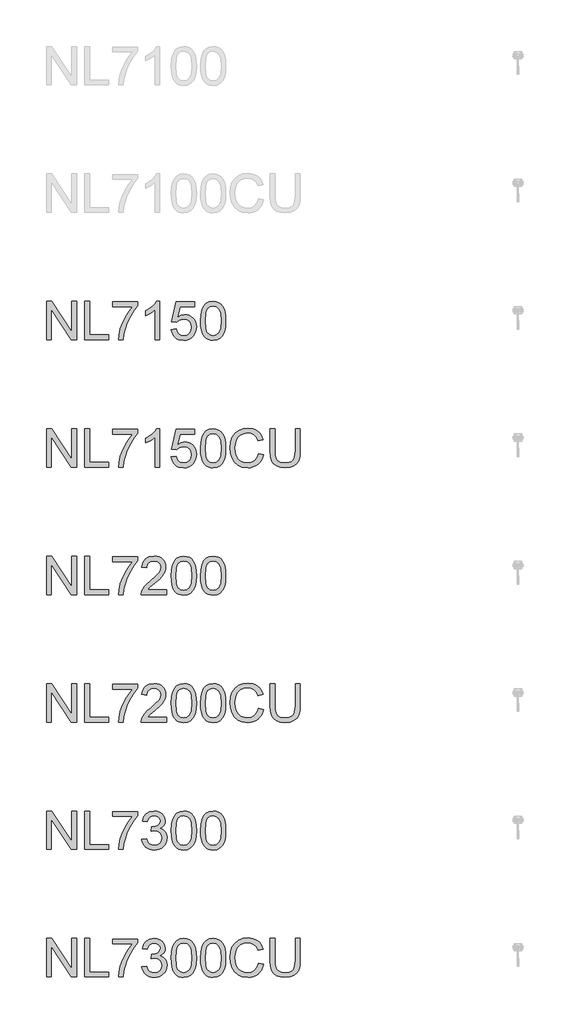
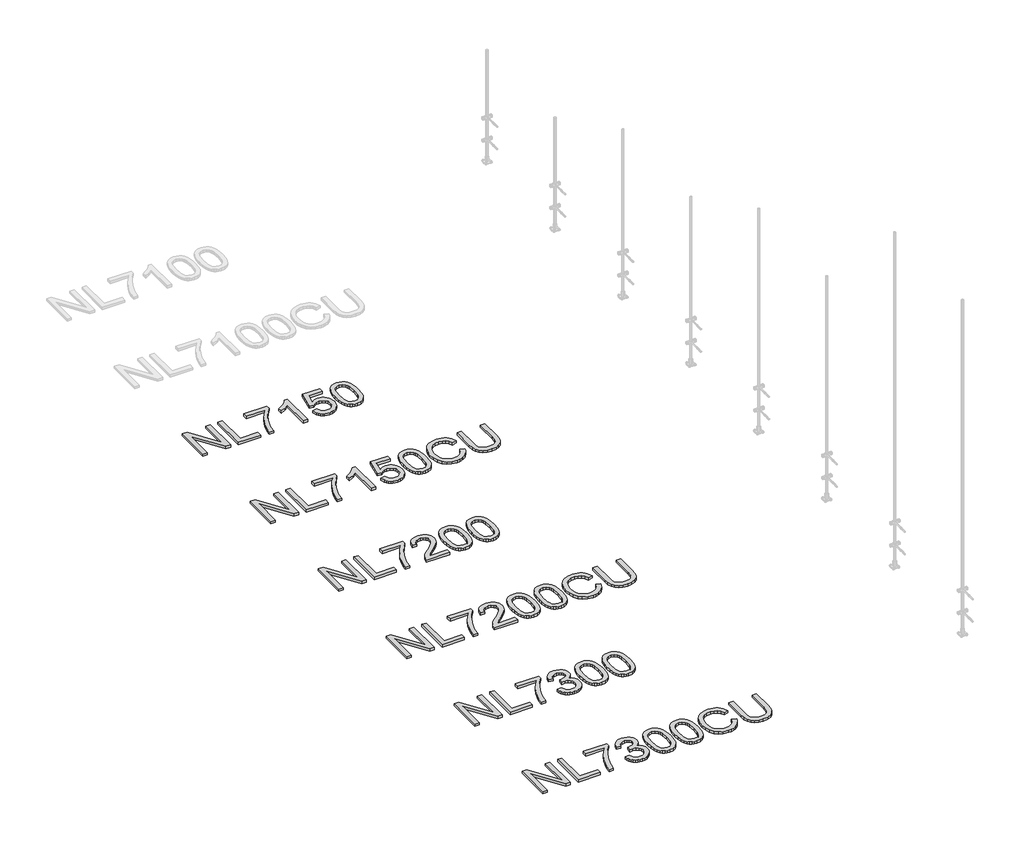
# One storey, part 66 of 124: 6 proxies.
"""IFC4 building model written with IfcOpenShell, lengths in millimetres."""

import ifcopenshell
import ifcopenshell.guid

model = None  # the IFC model being written
_history = None  # IfcOwnerHistory: only IFC2X3 demands one
_inside = {}  # id of a spatial element -> (the spatial element, [elements in it])
_under = {}  # id of a project, library or spatial element -> (it, [spatial elements below it])
_declared = {}  # id of a project -> (the project, [libraries it declares])
_typed = {}  # id of a type object -> (the type object, [elements of that type])
_made_of = {}  # id of a material, layer set ... -> (it, [elements and type objects made of it])


def new_model(schema):
    """Start an empty IFC model of exactly this schema.

    Asked for "IFC4X3", IfcOpenShell would pick the latest addendum, in which some entities
    have other attributes; the version numbers below select the first issue.
    IFC2X3 requires an IfcOwnerHistory on every rooted entity: one is made here for all.
    """
    global model, _history
    if schema == "IFC4X3":
        model = ifcopenshell.file(schema_version=(4, 3, 0, 0))
    else:
        model = ifcopenshell.file(schema=schema)
    _inside.clear()
    _under.clear()
    _declared.clear()
    _typed.clear()
    _made_of.clear()
    _history = None
    if model.schema == "IFC2X3":
        org = make("IfcOrganization", Name="unknown")
        user = make(
            "IfcPersonAndOrganization",
            ThePerson=make("IfcPerson", FamilyName="unknown"),
            TheOrganization=org,
        )
        app = make(
            "IfcApplication",
            ApplicationDeveloper=org,
            Version="unknown",
            ApplicationFullName="unknown",
            ApplicationIdentifier="unknown",
        )
        _history = make(
            "IfcOwnerHistory",
            OwningUser=user,
            OwningApplication=app,
            ChangeAction="ADDED",
            CreationDate=0,
        )
    return model


def make(cls, **values):
    """One entity of the class cls with the attributes given. An attribute that is None is left unset."""
    return model.create_entity(
        cls, **{name: value for name, value in values.items() if value is not None}
    )


def rooted(cls, **values):
    """An entity with a GlobalId (a new one), such as an element, a storey or a relation."""
    return make(cls, GlobalId=ifcopenshell.guid.new(), OwnerHistory=_history, **values)


def si_unit(unit_type, name, prefix=None):
    """IfcSIUnit, for example si_unit("LENGTHUNIT", "METRE", prefix="MILLI")."""
    return make("IfcSIUnit", UnitType=unit_type, Prefix=prefix, Name=name)


def assignment(units):
    """IfcUnitAssignment: the units of a project."""
    return None if units is None else make("IfcUnitAssignment", Units=units)


def point(xyz):
    """IfcCartesianPoint."""
    return None if xyz is None else make("IfcCartesianPoint", Coordinates=xyz)


def direction(xyz):
    """IfcDirection."""
    return None if xyz is None else make("IfcDirection", DirectionRatios=xyz)


def frame(location, z_axis=None, x_axis=None):
    """IfcAxis2Placement3D, a coordinate frame: its origin and axes. An axis left out is left unset."""
    return make(
        "IfcAxis2Placement3D",
        Location=point(location),
        Axis=direction(z_axis),
        RefDirection=direction(x_axis),
    )


def origin():
    """The frame at (0, 0, 0) with its axes left unset."""
    return frame((0.0, 0.0, 0.0))


def origin_with_axes():
    """The frame at (0, 0, 0) with the z axis (0, 0, 1) and the x axis (1, 0, 0) written out."""
    return frame((0.0, 0.0, 0.0), z_axis=(0.0, 0.0, 1.0), x_axis=(1.0, 0.0, 0.0))


def place(relative_to, where):
    """IfcLocalPlacement: puts the frame where relative to a parent placement (None: the world)."""
    return make(
        "IfcLocalPlacement", PlacementRelTo=relative_to, RelativePlacement=where
    )


def context(
    kind, dimensions, precision=None, world=None, true_north=None, identifier=None
):
    """IfcGeometricRepresentationContext, for example the 3D "Model" context."""
    return make(
        "IfcGeometricRepresentationContext",
        ContextIdentifier=identifier,
        ContextType=kind,
        CoordinateSpaceDimension=dimensions,
        Precision=precision,
        WorldCoordinateSystem=world,
        TrueNorth=true_north,
    )


def project(units=None, contexts=None):
    """IfcProject with its units and contexts."""
    return rooted(
        "IfcProject",
        Name="project",
        RepresentationContexts=contexts,
        UnitsInContext=assignment(units),
    )


def spatial(cls, under=None, at=None, **own):
    """A site, building, storey or space (cls), placed at a placement, below another one or the project."""
    s = rooted(cls, ObjectPlacement=at, **own)
    if under is not None:
        _under.setdefault(under.id(), (under, []))[1].append(s)
    return s


def polyline(points):
    """IfcPolyline through the points."""
    return make("IfcPolyline", Points=[point(p) for p in points])


def outline(outer, holes=None, kind="AREA"):
    """IfcArbitraryClosedProfileDef: a profile drawn as a closed curve; with holes, ...WithVoids."""
    if holes is None:
        return make("IfcArbitraryClosedProfileDef", ProfileType=kind, OuterCurve=outer)
    return make(
        "IfcArbitraryProfileDefWithVoids",
        ProfileType=kind,
        OuterCurve=outer,
        InnerCurves=holes,
    )


def extrude(swept, where, along, depth):
    """IfcExtrudedAreaSolid: the profile swept, set in the frame where, extruded along a direction by depth."""
    return make(
        "IfcExtrudedAreaSolid",
        SweptArea=swept,
        Position=where,
        ExtrudedDirection=direction(along),
        Depth=depth,
    )


def shape(context_of_items, identifier, shape_type, items):
    """IfcShapeRepresentation: the items that make up one representation, for example the "Body"."""
    return make(
        "IfcShapeRepresentation",
        ContextOfItems=context_of_items,
        RepresentationIdentifier=identifier,
        RepresentationType=shape_type,
        Items=items,
    )


def made_of(thing, what):
    """Note that an element or type object is made of a material, layer set ...; save() writes the relation."""
    if what is not None:
        _made_of.setdefault(what.id(), (what, []))[1].append(thing)
    return thing


def element(
    cls,
    number,
    at=None,
    inside=None,
    cuts=None,
    type_object=None,
    material=None,
    context=None,
    identifier="Body",
    shape_type=None,
    held_by="IfcProductDefinitionShape",
    body=None,
    shapes=None,
    **own,
):
    """One element of the class cls, such as IfcWall. Its Tag is "e" and its number.

    at: its placement. inside: the storey or other place that contains it. cuts: it is an
    opening in that element (IfcRelVoidsElement). A single representation is given by context,
    identifier, shape_type and body (its items); several are given by shapes. held_by: the class
    of the entity that holds the representations. save() writes the other relations.
    """
    e = rooted(cls, Tag="e%d" % number, ObjectPlacement=at, **own)
    if body is not None:
        shapes = [shape(context, identifier, shape_type, body)]
    if shapes is not None:
        e.Representation = make(held_by, Representations=shapes)
    if inside is not None:
        _inside.setdefault(inside.id(), (inside, []))[1].append(e)
    if cuts is not None:
        rooted(
            "IfcRelVoidsElement", RelatingBuildingElement=cuts, RelatedOpeningElement=e
        )
    if type_object is not None:
        _typed.setdefault(type_object.id(), (type_object, []))[1].append(e)
    return made_of(e, material)


def aggregate(whole, parts):
    """IfcRelAggregates: a whole, such as a stair, and the parts it consists of."""
    return rooted("IfcRelAggregates", RelatingObject=whole, RelatedObjects=parts)


def save(model, path):
    """Write the relations noted so far, then the file.

    IfcRelAggregates (storeys below a building ...), IfcRelContainedInSpatialStructure (elements
    in a storey), IfcRelDefinesByType, IfcRelAssociatesMaterial and IfcRelDeclares: one each for
    every whole, place, type object, material and project.
    """
    for whole, parts in _under.values():
        aggregate(whole, parts)
    for where, things in _inside.values():
        rooted(
            "IfcRelContainedInSpatialStructure",
            RelatedElements=things,
            RelatingStructure=where,
        )
    for kind, things in _typed.values():
        rooted("IfcRelDefinesByType", RelatedObjects=things, RelatingType=kind)
    for what, things in _made_of.values():
        rooted("IfcRelAssociatesMaterial", RelatedObjects=things, RelatingMaterial=what)
    for by, libraries in _declared.values():
        rooted("IfcRelDeclares", RelatingContext=by, RelatedDefinitions=libraries)
    model.write(path)


model = new_model("IFC4")

# Units and contexts
model_context = context("Model", 3, world=origin())
ifc_project = project(units=[si_unit("LENGTHUNIT", "METRE", prefix="MILLI")], contexts=[model_context])

# Site, building, storey
site = spatial("IfcSite", under=ifc_project)
building = spatial("IfcBuilding", under=site)
storey = spatial("IfcBuildingStorey", under=building, Name="Этаж 01", Elevation=0.0)

# Proxies
placement = place(None, origin())
element("IfcBuildingElementProxy", 1, Name="300", ObjectType="300", at=placement, inside=storey, context=model_context, shape_type="SweptSolid", body=[
    extrude(outline(polyline([(22499.8220677, -58107.4605888), (22499.8220677, -57806.0916583), (22540.1419344, -57806.0916583), (22697.5954283, -58044.8470732), (22697.5954283, -57806.0916583), (22735.2665446, -57806.0916583), (22735.2665446, -58107.4605888), (22694.9466779, -58107.4605888), (22537.493184, -57868.6315975), (22537.493184, -58107.4605888), (22499.8220677, -58107.4605888)])), origin_with_axes(), (0.0, 0.0, 1.0), 20.0),
    extrude(outline(polyline([(22801.1909981, -58107.4605888), (22801.1909981, -57806.0916583), (22838.8621144, -57806.0916583), (22838.8621144, -58069.7894725), (22989.5465797, -58069.7894725), (22989.5465797, -58107.4605888), (22801.1909981, -58107.4605888)])), origin_with_axes(), (0.0, 0.0, 1.0), 20.0),
    extrude(outline(polyline([(23017.7999169, -57848.4716642), (23017.7999169, -57810.8005479), (23215.5732775, -57810.8005479), (23215.5732775, -57841.2611771), (23187.3843196, -57876.9365335), (23159.4712732, -57922.3055806), (23134.8507707, -57973.2296458), (23116.5394444, -58025.5700566), (23107.5631237, -58064.731095), (23102.5599286, -58107.4605888), (23064.8888123, -58107.4605888), (23068.9631054, -58068.6306442), (23079.8616095, -58022.4798479), (23097.290019, -57973.5607396), (23120.9540284, -57926.4258589), (23148.5819662, -57883.8159269), (23177.9021612, -57848.4716642), (23017.7999169, -57848.4716642)])), origin_with_axes(), (0.0, 0.0, 1.0), 20.0),
    extrude(outline(polyline([(23389.8021904, -58107.4605888), (23352.1310741, -58107.4605888), (23352.1310741, -57872.604723), (23316.4465206, -57898.0253689), (23276.7888415, -57917.0448681), (23276.7888415, -57881.4338909), (23306.375751, -57865.3390536), (23332.007929, -57846.1907958), (23352.2138476, -57825.8285274), (23365.5219787, -57806.0916583), (23389.8021904, -57806.0916583), (23389.8021904, -58107.4605888)])), origin_with_axes(), (0.0, 0.0, 1.0), 20.0),
    extrude(outline(polyline([(23479.2710917, -58027.4094666), (23516.942208, -58022.7005771), (23523.8583895, -58045.3161227), (23535.9249189, -58061.5121276), (23553.086614, -58071.2518034), (23575.2882924, -58074.498362), (23602.2908308, -58069.9826105), (23622.5243406, -58056.435356), (23635.1610871, -58035.4200971), (23639.373336, -58008.5003321), (23635.4278016, -57983.1532626), (23623.5911984, -57963.7658815), (23603.7715559, -57951.4602287), (23575.8769036, -57947.3583445), (23557.6023655, -57948.9954193), (23542.8043122, -57953.906644), (23521.6510975, -57970.9027922), (23483.9799812, -57966.1939026), (23516.942208, -57810.8005479), (23662.9177836, -57810.8005479), (23662.9177836, -57848.4716642), (23547.4028372, -57848.4716642), (23531.2896058, -57931.4658423), (23558.2001737, -57915.1318817), (23586.3983286, -57909.6872282), (23604.7441439, -57911.3748868), (23621.5954385, -57916.4378628), (23636.9522126, -57924.876156), (23650.814466, -57936.6897666), (23662.290085, -57951.1567261), (23670.4869557, -57967.555066), (23675.4050781, -57985.8847864), (23677.0444523, -58006.1458873), (23671.1399462, -58043.8170036), (23663.7593137, -58060.6108167), (23653.4264282, -58076.0434664), (23637.7730493, -58091.8485966), (23619.5077082, -58103.1379753), (23598.630405, -58109.9116026), (23575.1411396, -58112.1694783), (23538.1414079, -58106.3661398), (23522.4627371, -58099.1119667), (23508.6648631, -58088.9561244), (23497.1846456, -58076.4044506), (23488.4589445, -58061.962783), (23479.2710917, -58027.4094666)])), origin_with_axes(), (0.0, 0.0, 1.0), 20.0),
    extrude(outline(polyline([(23710.006679, -57959.2041447), (23712.774991, -57910.9656181), (23721.0799271, -57872.4943585), (23734.8387137, -57843.2017546), (23753.9685775, -57822.4991953), (23778.6074741, -57810.1935426), (23808.8933593, -57806.0916583), (23832.1067132, -57808.5196795), (23852.892046, -57815.803743), (23870.2744702, -57827.6587403), (23883.2790988, -57843.7995628), (23893.101548, -57864.0882549), (23900.9374345, -57888.3868606), (23906.0693884, -57919.242963), (23907.7800396, -57959.2041447), (23905.0393188, -58007.1667598), (23896.8171562, -58045.546049), (23883.141143, -58074.866244), (23864.0388704, -58095.6515767), (23839.3447915, -58108.0400029), (23808.8933593, -58112.1694783), (23788.1448148, -58110.3760536), (23769.750715, -58104.9957794), (23753.7110601, -58096.0286558), (23740.0258498, -58083.4746827), (23726.8924626, -58060.7809621), (23717.5114717, -58032.5046323), (23711.8828772, -57998.6456931), (23710.006679, -57959.2041447)]), holes=[polyline([(23747.6777953, -57959.1305683), (23752.0923793, -58018.3871607), (23757.6106092, -58038.6551594), (23765.3361311, -58052.6829597), (23785.054606, -58069.0445114), (23808.8933593, -58074.498362), (23832.7321126, -58069.0261173), (23852.4505876, -58052.6093833), (23860.1761095, -58038.5585903), (23865.6943394, -58018.2951902), (23870.1089233, -57959.1305683), (23865.8414922, -57901.2075482), (23860.5072033, -57881.0062281), (23853.0391988, -57866.6450347), (23833.357512, -57849.4833397), (23808.4519009, -57843.7627746), (23784.870665, -57848.802758), (23765.9247423, -57863.922708), (23757.941703, -57879.5576928), (23752.2395321, -57900.6373311), (23747.6777953, -57959.1305683)])]), origin_with_axes(), (0.0, 0.0, 1.0), 20.0),
])
element("IfcBuildingElementProxy", 2, Name="300", ObjectType="300", at=placement, inside=storey, context=model_context, shape_type="SweptSolid", body=[
    extrude(outline(polyline([(22499.8220677, -59107.4605888), (22499.8220677, -58806.0916583), (22540.1419344, -58806.0916583), (22697.5954283, -59044.8470732), (22697.5954283, -58806.0916583), (22735.2665446, -58806.0916583), (22735.2665446, -59107.4605888), (22694.9466779, -59107.4605888), (22537.493184, -58868.6315975), (22537.493184, -59107.4605888), (22499.8220677, -59107.4605888)])), origin_with_axes(), (0.0, 0.0, 1.0), 20.0),
    extrude(outline(polyline([(22801.1909981, -59107.4605888), (22801.1909981, -58806.0916583), (22838.8621144, -58806.0916583), (22838.8621144, -59069.7894725), (22989.5465797, -59069.7894725), (22989.5465797, -59107.4605888), (22801.1909981, -59107.4605888)])), origin_with_axes(), (0.0, 0.0, 1.0), 20.0),
    extrude(outline(polyline([(23017.7999169, -58848.4716642), (23017.7999169, -58810.8005479), (23215.5732775, -58810.8005479), (23215.5732775, -58841.2611771), (23187.3843196, -58876.9365335), (23159.4712732, -58922.3055806), (23134.8507707, -58973.2296458), (23116.5394444, -59025.5700566), (23107.5631237, -59064.731095), (23102.5599286, -59107.4605888), (23064.8888123, -59107.4605888), (23068.9631054, -59068.6306442), (23079.8616095, -59022.4798479), (23097.290019, -58973.5607396), (23120.9540284, -58926.4258589), (23148.5819662, -58883.8159269), (23177.9021612, -58848.4716642), (23017.7999169, -58848.4716642)])), origin_with_axes(), (0.0, 0.0, 1.0), 20.0),
    extrude(outline(polyline([(23389.8021904, -59107.4605888), (23352.1310741, -59107.4605888), (23352.1310741, -58872.604723), (23316.4465206, -58898.0253689), (23276.7888415, -58917.0448681), (23276.7888415, -58881.4338909), (23306.375751, -58865.3390536), (23332.007929, -58846.1907958), (23352.2138476, -58825.8285274), (23365.5219787, -58806.0916583), (23389.8021904, -58806.0916583), (23389.8021904, -59107.4605888)])), origin_with_axes(), (0.0, 0.0, 1.0), 20.0),
    extrude(outline(polyline([(23479.2710917, -59027.4094666), (23516.942208, -59022.7005771), (23523.8583895, -59045.3161227), (23535.9249189, -59061.5121276), (23553.086614, -59071.2518034), (23575.2882924, -59074.498362), (23602.2908308, -59069.9826105), (23622.5243406, -59056.435356), (23635.1610871, -59035.4200971), (23639.373336, -59008.5003321), (23635.4278016, -58983.1532626), (23623.5911984, -58963.7658815), (23603.7715559, -58951.4602287), (23575.8769036, -58947.3583445), (23557.6023655, -58948.9954193), (23542.8043122, -58953.906644), (23521.6510975, -58970.9027922), (23483.9799812, -58966.1939026), (23516.942208, -58810.8005479), (23662.9177836, -58810.8005479), (23662.9177836, -58848.4716642), (23547.4028372, -58848.4716642), (23531.2896058, -58931.4658423), (23558.2001737, -58915.1318817), (23586.3983286, -58909.6872282), (23604.7441439, -58911.3748868), (23621.5954385, -58916.4378628), (23636.9522126, -58924.876156), (23650.814466, -58936.6897666), (23662.290085, -58951.1567261), (23670.4869557, -58967.555066), (23675.4050781, -58985.8847864), (23677.0444523, -59006.1458873), (23671.1399462, -59043.8170036), (23663.7593137, -59060.6108167), (23653.4264282, -59076.0434664), (23637.7730493, -59091.8485966), (23619.5077082, -59103.1379753), (23598.630405, -59109.9116026), (23575.1411396, -59112.1694783), (23538.1414079, -59106.3661398), (23522.4627371, -59099.1119667), (23508.6648631, -59088.9561244), (23497.1846456, -59076.4044506), (23488.4589445, -59061.962783), (23479.2710917, -59027.4094666)])), origin_with_axes(), (0.0, 0.0, 1.0), 20.0),
    extrude(outline(polyline([(23710.006679, -58959.2041447), (23712.774991, -58910.9656181), (23721.0799271, -58872.4943585), (23734.8387137, -58843.2017546), (23753.9685775, -58822.4991953), (23778.6074741, -58810.1935426), (23808.8933593, -58806.0916583), (23832.1067132, -58808.5196795), (23852.892046, -58815.803743), (23870.2744702, -58827.6587403), (23883.2790988, -58843.7995628), (23893.101548, -58864.0882549), (23900.9374345, -58888.3868606), (23906.0693884, -58919.242963), (23907.7800396, -58959.2041447), (23905.0393188, -59007.1667598), (23896.8171562, -59045.546049), (23883.141143, -59074.866244), (23864.0388704, -59095.6515767), (23839.3447915, -59108.0400029), (23808.8933593, -59112.1694783), (23788.1448148, -59110.3760536), (23769.750715, -59104.9957794), (23753.7110601, -59096.0286558), (23740.0258498, -59083.4746827), (23726.8924626, -59060.7809621), (23717.5114717, -59032.5046323), (23711.8828772, -58998.6456931), (23710.006679, -58959.2041447)]), holes=[polyline([(23747.6777953, -58959.1305683), (23752.0923793, -59018.3871607), (23757.6106092, -59038.6551594), (23765.3361311, -59052.6829597), (23785.054606, -59069.0445114), (23808.8933593, -59074.498362), (23832.7321126, -59069.0261173), (23852.4505876, -59052.6093833), (23860.1761095, -59038.5585903), (23865.6943394, -59018.2951902), (23870.1089233, -58959.1305683), (23865.8414922, -58901.2075482), (23860.5072033, -58881.0062281), (23853.0391988, -58866.6450347), (23833.357512, -58849.4833397), (23808.4519009, -58843.7627746), (23784.870665, -58848.802758), (23765.9247423, -58863.922708), (23757.941703, -58879.5576928), (23752.2395321, -58900.6373311), (23747.6777953, -58959.1305683)])]), origin_with_axes(), (0.0, 0.0, 1.0), 20.0),
    extrude(outline(polyline([(24166.7689642, -59000.3333518), (24204.4400805, -59010.0454364), (24196.9858716, -59033.4726218), (24187.0576563, -59053.9429555), (24174.6554345, -59071.4564378), (24159.7792063, -59086.0130685), (24142.7646641, -59097.4564978), (24123.9475, -59105.6303758), (24103.3277142, -59110.5347027), (24080.9053066, -59112.1694783), (24037.2101226, -59107.2214655), (24002.5096534, -59092.377427), (23975.9117851, -59068.1523976), (23956.524404, -59035.0614121), (23944.6878008, -58996.1578911), (23940.7422664, -58954.4952552), (23945.2028356, -58910.5517509), (23958.5845432, -58872.604723), (23980.1884133, -58841.8589853), (24009.3154703, -58819.5193511), (24043.8595897, -58805.9169144), (24081.714647, -58801.3827688), (24123.018598, -58807.2504866), (24140.9873342, -58814.5851339), (24157.1672442, -58824.8536401), (24171.2916135, -58837.7846922), (24183.0937278, -58853.1069773), (24199.731191, -58890.9252464), (24162.0600747, -58899.9015671), (24149.0002639, -58872.4299791), (24131.1579871, -58853.5852239), (24108.3125152, -58842.6867198), (24080.243119, -58839.0538851), (24047.8878975, -58843.0821929), (24021.3084233, -58855.1671165), (24001.139293, -58874.0394628), (23988.0151028, -58898.4300391), (23980.8138127, -58926.0027946), (23978.4133827, -58954.4216788), (23981.2552711, -58989.2233155), (23989.7809364, -59019.3160627), (24004.3122752, -59043.5502892), (24025.1711843, -59060.7763636), (24050.1779629, -59071.0678624), (24077.1529102, -59074.498362), (24108.5976238, -59069.8262607), (24134.8000189, -59055.8099566), (24154.5828731, -59032.5966028), (24166.7689642, -59000.3333518)])), origin_with_axes(), (0.0, 0.0, 1.0), 20.0),
    extrude(outline(polyline([(24454.0112261, -58806.0916583), (24491.6823424, -58806.0916583), (24491.6823424, -58979.9526892), (24489.1255625, -59020.6680291), (24481.4552229, -59052.0207721), (24467.1262192, -59076.2090133), (24444.593447, -59095.4308475), (24413.801724, -59107.9848206), (24374.6958679, -59112.1694783), (24336.4453375, -59108.5274466), (24305.8651466, -59097.6013513), (24282.9460983, -59079.7682716), (24267.6789955, -59055.4052865), (24259.098148, -59022.7281682), (24256.2378655, -58979.9526892), (24256.2378655, -58806.0916583), (24293.9089818, -58806.0916583), (24293.9089818, -58978.6283141), (24295.7667858, -59012.4826547), (24301.3401981, -59036.0546935), (24311.4385588, -59052.379457), (24326.8712085, -59064.4919717), (24346.9943537, -59071.9967644), (24371.1642008, -59074.498362), (24409.4791106, -59069.5503492), (24423.8219098, -59063.3653331), (24434.9549387, -59054.7063107), (24443.2920644, -59042.5294166), (24449.2471542, -59025.7907858), (24454.0112261, -58978.6283141), (24454.0112261, -58806.0916583)])), origin_with_axes(), (0.0, 0.0, 1.0), 20.0),
])
element("IfcBuildingElementProxy", 3, Name="300", ObjectType="300", at=placement, inside=storey, context=model_context, shape_type="SweptSolid", body=[
    extrude(outline(polyline([(22499.8220677, -60107.4605888), (22499.8220677, -59806.0916583), (22540.1419344, -59806.0916583), (22697.5954283, -60044.8470732), (22697.5954283, -59806.0916583), (22735.2665446, -59806.0916583), (22735.2665446, -60107.4605888), (22694.9466779, -60107.4605888), (22537.493184, -59868.6315975), (22537.493184, -60107.4605888), (22499.8220677, -60107.4605888)])), origin_with_axes(), (0.0, 0.0, 1.0), 20.0),
    extrude(outline(polyline([(22801.1909981, -60107.4605888), (22801.1909981, -59806.0916583), (22838.8621144, -59806.0916583), (22838.8621144, -60069.7894725), (22989.5465797, -60069.7894725), (22989.5465797, -60107.4605888), (22801.1909981, -60107.4605888)])), origin_with_axes(), (0.0, 0.0, 1.0), 20.0),
    extrude(outline(polyline([(23017.7999169, -59848.4716642), (23017.7999169, -59810.8005479), (23215.5732775, -59810.8005479), (23215.5732775, -59841.2611771), (23187.3843196, -59876.9365335), (23159.4712732, -59922.3055806), (23134.8507707, -59973.2296458), (23116.5394444, -60025.5700566), (23107.5631237, -60064.731095), (23102.5599286, -60107.4605888), (23064.8888123, -60107.4605888), (23068.9631054, -60068.6306442), (23079.8616095, -60022.4798479), (23097.290019, -59973.5607396), (23120.9540284, -59926.4258589), (23148.5819662, -59883.8159269), (23177.9021612, -59848.4716642), (23017.7999169, -59848.4716642)])), origin_with_axes(), (0.0, 0.0, 1.0), 20.0),
    extrude(outline(polyline([(23441.5999753, -60069.7894725), (23441.5999753, -60107.4605888), (23243.8266147, -60107.4605888), (23247.8733167, -60081.4881199), (23257.1623371, -60061.1902308), (23270.7555768, -60041.499347), (23290.4188694, -60020.8887583), (23317.9180486, -59997.8317542), (23358.569009, -59961.7241364), (23382.9595853, -59935.0710858), (23395.1548735, -59913.4396245), (23399.2199695, -59892.3967744), (23395.3847997, -59873.5336251), (23383.8792903, -59857.852655), (23366.1933634, -59847.2852447), (23343.816941, -59843.7627746), (23320.3184786, -59847.2024713), (23302.0623346, -59857.5215612), (23290.2809137, -59873.9107041), (23286.2066206, -59895.5605595), (23248.5355043, -59890.85167), (23257.6681748, -59854.4129584), (23266.2145334, -59839.8770211), (23277.4142409, -59827.796696), (23291.0097799, -59818.300742), (23306.743633, -59811.5179177), (23344.6262814, -59806.0916583), (23364.8161052, -59807.5999745), (23382.7848414, -59812.124923), (23398.53249, -59819.6665039), (23412.0590511, -59830.2247172), (23422.9230663, -59843.0178136), (23430.6830771, -59857.2640439), (23435.3390836, -59872.963408), (23436.8910858, -59890.115906), (23435.2172227, -59908.1329267), (23430.1956335, -59925.8372478), (23421.2836922, -59943.8450714), (23407.9387728, -59962.7726001), (23386.6659964, -59985.3697516), (23353.9704841, -60014.386444), (23310.6339851, -60050.6228205), (23293.6378369, -60069.7894725), (23441.5999753, -60069.7894725)])), origin_with_axes(), (0.0, 0.0, 1.0), 20.0),
    extrude(outline(polyline([(23479.2710917, -59959.2041447), (23482.0394037, -59910.9656181), (23490.3443397, -59872.4943585), (23504.1031263, -59843.2017546), (23523.2329901, -59822.4991953), (23547.8718867, -59810.1935426), (23578.157772, -59806.0916583), (23601.3711259, -59808.5196795), (23622.1564586, -59815.803743), (23639.5388829, -59827.6587403), (23652.5435114, -59843.7995628), (23662.3659607, -59864.0882549), (23670.2018471, -59888.3868606), (23675.333801, -59919.242963), (23677.0444523, -59959.2041447), (23674.3037314, -60007.1667598), (23666.0815688, -60045.546049), (23652.4055556, -60074.866244), (23633.303283, -60095.6515767), (23608.6092041, -60108.0400029), (23578.157772, -60112.1694783), (23557.4092274, -60110.3760536), (23539.0151277, -60104.9957794), (23522.9754727, -60096.0286558), (23509.2902625, -60083.4746827), (23496.1568752, -60060.7809621), (23486.7758844, -60032.5046323), (23481.1472898, -59998.6456931), (23479.2710917, -59959.2041447)]), holes=[polyline([(23516.942208, -59959.1305683), (23521.3567919, -60018.3871607), (23526.8750218, -60038.6551594), (23534.6005437, -60052.6829597), (23554.3190187, -60069.0445114), (23578.157772, -60074.498362), (23601.9965252, -60069.0261173), (23621.7150002, -60052.6093833), (23629.4405221, -60038.5585903), (23634.958752, -60018.2951902), (23639.373336, -59959.1305683), (23635.1059048, -59901.2075482), (23629.7716159, -59881.0062281), (23622.3036114, -59866.6450347), (23602.6219246, -59849.4833397), (23577.7163136, -59843.7627746), (23554.1350777, -59848.802758), (23535.1891549, -59863.922708), (23527.2061156, -59879.5576928), (23521.5039447, -59900.6373311), (23516.942208, -59959.1305683)])]), origin_with_axes(), (0.0, 0.0, 1.0), 20.0),
    extrude(outline(polyline([(23710.006679, -59959.2041447), (23712.774991, -59910.9656181), (23721.0799271, -59872.4943585), (23734.8387137, -59843.2017546), (23753.9685775, -59822.4991953), (23778.6074741, -59810.1935426), (23808.8933593, -59806.0916583), (23832.1067132, -59808.5196795), (23852.892046, -59815.803743), (23870.2744702, -59827.6587403), (23883.2790988, -59843.7995628), (23893.101548, -59864.0882549), (23900.9374345, -59888.3868606), (23906.0693884, -59919.242963), (23907.7800396, -59959.2041447), (23905.0393188, -60007.1667598), (23896.8171562, -60045.546049), (23883.141143, -60074.866244), (23864.0388704, -60095.6515767), (23839.3447915, -60108.0400029), (23808.8933593, -60112.1694783), (23788.1448148, -60110.3760536), (23769.750715, -60104.9957794), (23753.7110601, -60096.0286558), (23740.0258498, -60083.4746827), (23726.8924626, -60060.7809621), (23717.5114717, -60032.5046323), (23711.8828772, -59998.6456931), (23710.006679, -59959.2041447)]), holes=[polyline([(23747.6777953, -59959.1305683), (23752.0923793, -60018.3871607), (23757.6106092, -60038.6551594), (23765.3361311, -60052.6829597), (23785.054606, -60069.0445114), (23808.8933593, -60074.498362), (23832.7321126, -60069.0261173), (23852.4505876, -60052.6093833), (23860.1761095, -60038.5585903), (23865.6943394, -60018.2951902), (23870.1089233, -59959.1305683), (23865.8414922, -59901.2075482), (23860.5072033, -59881.0062281), (23853.0391988, -59866.6450347), (23833.357512, -59849.4833397), (23808.4519009, -59843.7627746), (23784.870665, -59848.802758), (23765.9247423, -59863.922708), (23757.941703, -59879.5576928), (23752.2395321, -59900.6373311), (23747.6777953, -59959.1305683)])]), origin_with_axes(), (0.0, 0.0, 1.0), 20.0),
])
element("IfcBuildingElementProxy", 4, Name="300", ObjectType="300", at=placement, inside=storey, context=model_context, shape_type="SweptSolid", body=[
    extrude(outline(polyline([(22499.8220677, -61107.4605888), (22499.8220677, -60806.0916583), (22540.1419344, -60806.0916583), (22697.5954283, -61044.8470732), (22697.5954283, -60806.0916583), (22735.2665446, -60806.0916583), (22735.2665446, -61107.4605888), (22694.9466779, -61107.4605888), (22537.493184, -60868.6315975), (22537.493184, -61107.4605888), (22499.8220677, -61107.4605888)])), origin_with_axes(), (0.0, 0.0, 1.0), 20.0),
    extrude(outline(polyline([(22801.1909981, -61107.4605888), (22801.1909981, -60806.0916583), (22838.8621144, -60806.0916583), (22838.8621144, -61069.7894725), (22989.5465797, -61069.7894725), (22989.5465797, -61107.4605888), (22801.1909981, -61107.4605888)])), origin_with_axes(), (0.0, 0.0, 1.0), 20.0),
    extrude(outline(polyline([(23017.7999169, -60848.4716642), (23017.7999169, -60810.8005479), (23215.5732775, -60810.8005479), (23215.5732775, -60841.2611771), (23187.3843196, -60876.9365335), (23159.4712732, -60922.3055806), (23134.8507707, -60973.2296458), (23116.5394444, -61025.5700566), (23107.5631237, -61064.731095), (23102.5599286, -61107.4605888), (23064.8888123, -61107.4605888), (23068.9631054, -61068.6306442), (23079.8616095, -61022.4798479), (23097.290019, -60973.5607396), (23120.9540284, -60926.4258589), (23148.5819662, -60883.8159269), (23177.9021612, -60848.4716642), (23017.7999169, -60848.4716642)])), origin_with_axes(), (0.0, 0.0, 1.0), 20.0),
    extrude(outline(polyline([(23441.5999753, -61069.7894725), (23441.5999753, -61107.4605888), (23243.8266147, -61107.4605888), (23247.8733167, -61081.4881199), (23257.1623371, -61061.1902308), (23270.7555768, -61041.499347), (23290.4188694, -61020.8887583), (23317.9180486, -60997.8317542), (23358.569009, -60961.7241364), (23382.9595853, -60935.0710858), (23395.1548735, -60913.4396245), (23399.2199695, -60892.3967744), (23395.3847997, -60873.5336251), (23383.8792903, -60857.852655), (23366.1933634, -60847.2852447), (23343.816941, -60843.7627746), (23320.3184786, -60847.2024713), (23302.0623346, -60857.5215612), (23290.2809137, -60873.9107041), (23286.2066206, -60895.5605595), (23248.5355043, -60890.85167), (23257.6681748, -60854.4129584), (23266.2145334, -60839.8770211), (23277.4142409, -60827.796696), (23291.0097799, -60818.300742), (23306.743633, -60811.5179177), (23344.6262814, -60806.0916583), (23364.8161052, -60807.5999745), (23382.7848414, -60812.124923), (23398.53249, -60819.6665039), (23412.0590511, -60830.2247172), (23422.9230663, -60843.0178136), (23430.6830771, -60857.2640439), (23435.3390836, -60872.963408), (23436.8910858, -60890.115906), (23435.2172227, -60908.1329267), (23430.1956335, -60925.8372478), (23421.2836922, -60943.8450714), (23407.9387728, -60962.7726001), (23386.6659964, -60985.3697516), (23353.9704841, -61014.386444), (23310.6339851, -61050.6228205), (23293.6378369, -61069.7894725), (23441.5999753, -61069.7894725)])), origin_with_axes(), (0.0, 0.0, 1.0), 20.0),
    extrude(outline(polyline([(23479.2710917, -60959.2041447), (23482.0394037, -60910.9656181), (23490.3443397, -60872.4943585), (23504.1031263, -60843.2017546), (23523.2329901, -60822.4991953), (23547.8718867, -60810.1935426), (23578.157772, -60806.0916583), (23601.3711259, -60808.5196795), (23622.1564586, -60815.803743), (23639.5388829, -60827.6587403), (23652.5435114, -60843.7995628), (23662.3659607, -60864.0882549), (23670.2018471, -60888.3868606), (23675.333801, -60919.242963), (23677.0444523, -60959.2041447), (23674.3037314, -61007.1667598), (23666.0815688, -61045.546049), (23652.4055556, -61074.866244), (23633.303283, -61095.6515767), (23608.6092041, -61108.0400029), (23578.157772, -61112.1694783), (23557.4092274, -61110.3760536), (23539.0151277, -61104.9957794), (23522.9754727, -61096.0286558), (23509.2902625, -61083.4746827), (23496.1568752, -61060.7809621), (23486.7758844, -61032.5046323), (23481.1472898, -60998.6456931), (23479.2710917, -60959.2041447)]), holes=[polyline([(23516.942208, -60959.1305683), (23521.3567919, -61018.3871607), (23526.8750218, -61038.6551594), (23534.6005437, -61052.6829597), (23554.3190187, -61069.0445114), (23578.157772, -61074.498362), (23601.9965252, -61069.0261173), (23621.7150002, -61052.6093833), (23629.4405221, -61038.5585903), (23634.958752, -61018.2951902), (23639.373336, -60959.1305683), (23635.1059048, -60901.2075482), (23629.7716159, -60881.0062281), (23622.3036114, -60866.6450347), (23602.6219246, -60849.4833397), (23577.7163136, -60843.7627746), (23554.1350777, -60848.802758), (23535.1891549, -60863.922708), (23527.2061156, -60879.5576928), (23521.5039447, -60900.6373311), (23516.942208, -60959.1305683)])]), origin_with_axes(), (0.0, 0.0, 1.0), 20.0),
    extrude(outline(polyline([(23710.006679, -60959.2041447), (23712.774991, -60910.9656181), (23721.0799271, -60872.4943585), (23734.8387137, -60843.2017546), (23753.9685775, -60822.4991953), (23778.6074741, -60810.1935426), (23808.8933593, -60806.0916583), (23832.1067132, -60808.5196795), (23852.892046, -60815.803743), (23870.2744702, -60827.6587403), (23883.2790988, -60843.7995628), (23893.101548, -60864.0882549), (23900.9374345, -60888.3868606), (23906.0693884, -60919.242963), (23907.7800396, -60959.2041447), (23905.0393188, -61007.1667598), (23896.8171562, -61045.546049), (23883.141143, -61074.866244), (23864.0388704, -61095.6515767), (23839.3447915, -61108.0400029), (23808.8933593, -61112.1694783), (23788.1448148, -61110.3760536), (23769.750715, -61104.9957794), (23753.7110601, -61096.0286558), (23740.0258498, -61083.4746827), (23726.8924626, -61060.7809621), (23717.5114717, -61032.5046323), (23711.8828772, -60998.6456931), (23710.006679, -60959.2041447)]), holes=[polyline([(23747.6777953, -60959.1305683), (23752.0923793, -61018.3871607), (23757.6106092, -61038.6551594), (23765.3361311, -61052.6829597), (23785.054606, -61069.0445114), (23808.8933593, -61074.498362), (23832.7321126, -61069.0261173), (23852.4505876, -61052.6093833), (23860.1761095, -61038.5585903), (23865.6943394, -61018.2951902), (23870.1089233, -60959.1305683), (23865.8414922, -60901.2075482), (23860.5072033, -60881.0062281), (23853.0391988, -60866.6450347), (23833.357512, -60849.4833397), (23808.4519009, -60843.7627746), (23784.870665, -60848.802758), (23765.9247423, -60863.922708), (23757.941703, -60879.5576928), (23752.2395321, -60900.6373311), (23747.6777953, -60959.1305683)])]), origin_with_axes(), (0.0, 0.0, 1.0), 20.0),
    extrude(outline(polyline([(24166.7689642, -61000.3333518), (24204.4400805, -61010.0454364), (24196.9858716, -61033.4726218), (24187.0576563, -61053.9429555), (24174.6554345, -61071.4564378), (24159.7792063, -61086.0130685), (24142.7646641, -61097.4564978), (24123.9475, -61105.6303758), (24103.3277142, -61110.5347027), (24080.9053066, -61112.1694783), (24037.2101226, -61107.2214655), (24002.5096534, -61092.377427), (23975.9117851, -61068.1523976), (23956.524404, -61035.0614121), (23944.6878008, -60996.1578911), (23940.7422664, -60954.4952552), (23945.2028356, -60910.5517509), (23958.5845432, -60872.604723), (23980.1884133, -60841.8589853), (24009.3154703, -60819.5193511), (24043.8595897, -60805.9169144), (24081.714647, -60801.3827688), (24123.018598, -60807.2504866), (24140.9873342, -60814.5851339), (24157.1672442, -60824.8536401), (24171.2916135, -60837.7846922), (24183.0937278, -60853.1069773), (24199.731191, -60890.9252464), (24162.0600747, -60899.9015671), (24149.0002639, -60872.4299791), (24131.1579871, -60853.5852239), (24108.3125152, -60842.6867198), (24080.243119, -60839.0538851), (24047.8878975, -60843.0821929), (24021.3084233, -60855.1671165), (24001.139293, -60874.0394628), (23988.0151028, -60898.4300391), (23980.8138127, -60926.0027946), (23978.4133827, -60954.4216788), (23981.2552711, -60989.2233155), (23989.7809364, -61019.3160627), (24004.3122752, -61043.5502892), (24025.1711843, -61060.7763636), (24050.1779629, -61071.0678624), (24077.1529102, -61074.498362), (24108.5976238, -61069.8262607), (24134.8000189, -61055.8099566), (24154.5828731, -61032.5966028), (24166.7689642, -61000.3333518)])), origin_with_axes(), (0.0, 0.0, 1.0), 20.0),
    extrude(outline(polyline([(24454.0112261, -60806.0916583), (24491.6823424, -60806.0916583), (24491.6823424, -60979.9526892), (24489.1255625, -61020.6680291), (24481.4552229, -61052.0207721), (24467.1262192, -61076.2090133), (24444.593447, -61095.4308475), (24413.801724, -61107.9848206), (24374.6958679, -61112.1694783), (24336.4453375, -61108.5274466), (24305.8651466, -61097.6013513), (24282.9460983, -61079.7682716), (24267.6789955, -61055.4052865), (24259.098148, -61022.7281682), (24256.2378655, -60979.9526892), (24256.2378655, -60806.0916583), (24293.9089818, -60806.0916583), (24293.9089818, -60978.6283141), (24295.7667858, -61012.4826547), (24301.3401981, -61036.0546935), (24311.4385588, -61052.379457), (24326.8712085, -61064.4919717), (24346.9943537, -61071.9967644), (24371.1642008, -61074.498362), (24409.4791106, -61069.5503492), (24423.8219098, -61063.3653331), (24434.9549387, -61054.7063107), (24443.2920644, -61042.5294166), (24449.2471542, -61025.7907858), (24454.0112261, -60978.6283141), (24454.0112261, -60806.0916583)])), origin_with_axes(), (0.0, 0.0, 1.0), 20.0),
])
element("IfcBuildingElementProxy", 5, Name="300", ObjectType="300", at=placement, inside=storey, context=model_context, shape_type="SweptSolid", body=[
    extrude(outline(polyline([(22499.8220677, -62107.4605888), (22499.8220677, -61806.0916583), (22540.1419344, -61806.0916583), (22697.5954283, -62044.8470732), (22697.5954283, -61806.0916583), (22735.2665446, -61806.0916583), (22735.2665446, -62107.4605888), (22694.9466779, -62107.4605888), (22537.493184, -61868.6315975), (22537.493184, -62107.4605888), (22499.8220677, -62107.4605888)])), origin_with_axes(), (0.0, 0.0, 1.0), 20.0),
    extrude(outline(polyline([(22801.1909981, -62107.4605888), (22801.1909981, -61806.0916583), (22838.8621144, -61806.0916583), (22838.8621144, -62069.7894725), (22989.5465797, -62069.7894725), (22989.5465797, -62107.4605888), (22801.1909981, -62107.4605888)])), origin_with_axes(), (0.0, 0.0, 1.0), 20.0),
    extrude(outline(polyline([(23017.7999169, -61848.4716642), (23017.7999169, -61810.8005479), (23215.5732775, -61810.8005479), (23215.5732775, -61841.2611771), (23187.3843196, -61876.9365335), (23159.4712732, -61922.3055806), (23134.8507707, -61973.2296458), (23116.5394444, -62025.5700566), (23107.5631237, -62064.731095), (23102.5599286, -62107.4605888), (23064.8888123, -62107.4605888), (23068.9631054, -62068.6306442), (23079.8616095, -62022.4798479), (23097.290019, -61973.5607396), (23120.9540284, -61926.4258589), (23148.5819662, -61883.8159269), (23177.9021612, -61848.4716642), (23017.7999169, -61848.4716642)])), origin_with_axes(), (0.0, 0.0, 1.0), 20.0),
    extrude(outline(polyline([(23248.5355043, -62027.4094666), (23286.2066206, -62022.7005771), (23294.6403153, -62046.3737835), (23306.9919533, -62062.3582562), (23323.8685398, -62071.4633355), (23345.8770802, -62074.498362), (23371.7023963, -62070.3229014), (23391.6416004, -62057.7965194), (23404.3887115, -62039.1081141), (23408.6377486, -62016.4465832), (23404.4254997, -61994.9346835), (23391.7887532, -61977.4878799), (23372.6588895, -61965.9271882), (23348.967289, -61962.0736243), (23322.5533617, -61966.1939026), (23326.7472165, -61928.5227863), (23332.7804812, -61928.9642447), (23355.3500416, -61926.260312), (23375.528369, -61918.1485141), (23389.7654022, -61904.4265156), (23394.51108, -61884.8919817), (23391.0713833, -61868.6224005), (23380.7522933, -61855.4246339), (23365.006944, -61846.6782394), (23345.288469, -61843.7627746), (23325.5332059, -61846.7058306), (23309.3831863, -61855.5349985), (23297.5925683, -61870.2502783), (23290.9155101, -61890.85167), (23253.2443938, -61886.1427805), (23264.336036, -61852.316031), (23284.072905, -61827.060932), (23311.0754435, -61811.3339768), (23343.9640938, -61806.0916583), (23367.6464973, -61808.6760293), (23389.3975202, -61816.4291424), (23407.7364377, -61828.6612187), (23421.1825246, -61844.6824796), (23429.4322784, -61863.1409587), (23432.1821963, -61882.6846897), (23429.5702341, -61900.8948485), (23421.7343476, -61917.4127501), (23408.7849014, -61931.4842364), (23390.83226, -61942.3551493), (23414.4134959, -61951.883293), (23431.8878907, -61968.106889), (23442.7036213, -61990.1430205), (23446.3088649, -62017.1087708), (23444.5062431, -62036.2202404), (23439.0983778, -62053.8233939), (23430.0852689, -62069.9182312), (23417.4669165, -62084.5047523), (23402.0940476, -62096.6080699), (23384.8173894, -62105.2532968), (23365.6369419, -62110.4404329), (23344.552705, -62112.1694783), (23325.4964177, -62110.6933518), (23308.1323875, -62106.2649723), (23292.4606145, -62098.8843398), (23278.4810987, -62088.5514542), (23266.7594586, -62075.873321), (23257.8613129, -62061.4569453), (23251.7866614, -62045.3023272), (23248.5355043, -62027.4094666)])), origin_with_axes(), (0.0, 0.0, 1.0), 20.0),
    extrude(outline(polyline([(23479.2710917, -61959.2041447), (23482.0394037, -61910.9656181), (23490.3443397, -61872.4943585), (23504.1031263, -61843.2017546), (23523.2329901, -61822.4991953), (23547.8718867, -61810.1935426), (23578.157772, -61806.0916583), (23601.3711259, -61808.5196795), (23622.1564586, -61815.803743), (23639.5388829, -61827.6587403), (23652.5435114, -61843.7995628), (23662.3659607, -61864.0882549), (23670.2018471, -61888.3868606), (23675.333801, -61919.242963), (23677.0444523, -61959.2041447), (23674.3037314, -62007.1667598), (23666.0815688, -62045.546049), (23652.4055556, -62074.866244), (23633.303283, -62095.6515767), (23608.6092041, -62108.0400029), (23578.157772, -62112.1694783), (23557.4092274, -62110.3760536), (23539.0151277, -62104.9957794), (23522.9754727, -62096.0286558), (23509.2902625, -62083.4746827), (23496.1568752, -62060.7809621), (23486.7758844, -62032.5046323), (23481.1472898, -61998.6456931), (23479.2710917, -61959.2041447)]), holes=[polyline([(23516.942208, -61959.1305683), (23521.3567919, -62018.3871607), (23526.8750218, -62038.6551594), (23534.6005437, -62052.6829597), (23554.3190187, -62069.0445114), (23578.157772, -62074.498362), (23601.9965252, -62069.0261173), (23621.7150002, -62052.6093833), (23629.4405221, -62038.5585903), (23634.958752, -62018.2951902), (23639.373336, -61959.1305683), (23635.1059048, -61901.2075482), (23629.7716159, -61881.0062281), (23622.3036114, -61866.6450347), (23602.6219246, -61849.4833397), (23577.7163136, -61843.7627746), (23554.1350777, -61848.802758), (23535.1891549, -61863.922708), (23527.2061156, -61879.5576928), (23521.5039447, -61900.6373311), (23516.942208, -61959.1305683)])]), origin_with_axes(), (0.0, 0.0, 1.0), 20.0),
    extrude(outline(polyline([(23710.006679, -61959.2041447), (23712.774991, -61910.9656181), (23721.0799271, -61872.4943585), (23734.8387137, -61843.2017546), (23753.9685775, -61822.4991953), (23778.6074741, -61810.1935426), (23808.8933593, -61806.0916583), (23832.1067132, -61808.5196795), (23852.892046, -61815.803743), (23870.2744702, -61827.6587403), (23883.2790988, -61843.7995628), (23893.101548, -61864.0882549), (23900.9374345, -61888.3868606), (23906.0693884, -61919.242963), (23907.7800396, -61959.2041447), (23905.0393188, -62007.1667598), (23896.8171562, -62045.546049), (23883.141143, -62074.866244), (23864.0388704, -62095.6515767), (23839.3447915, -62108.0400029), (23808.8933593, -62112.1694783), (23788.1448148, -62110.3760536), (23769.750715, -62104.9957794), (23753.7110601, -62096.0286558), (23740.0258498, -62083.4746827), (23726.8924626, -62060.7809621), (23717.5114717, -62032.5046323), (23711.8828772, -61998.6456931), (23710.006679, -61959.2041447)]), holes=[polyline([(23747.6777953, -61959.1305683), (23752.0923793, -62018.3871607), (23757.6106092, -62038.6551594), (23765.3361311, -62052.6829597), (23785.054606, -62069.0445114), (23808.8933593, -62074.498362), (23832.7321126, -62069.0261173), (23852.4505876, -62052.6093833), (23860.1761095, -62038.5585903), (23865.6943394, -62018.2951902), (23870.1089233, -61959.1305683), (23865.8414922, -61901.2075482), (23860.5072033, -61881.0062281), (23853.0391988, -61866.6450347), (23833.357512, -61849.4833397), (23808.4519009, -61843.7627746), (23784.870665, -61848.802758), (23765.9247423, -61863.922708), (23757.941703, -61879.5576928), (23752.2395321, -61900.6373311), (23747.6777953, -61959.1305683)])]), origin_with_axes(), (0.0, 0.0, 1.0), 20.0),
])
element("IfcBuildingElementProxy", 6, Name="300", ObjectType="300", at=placement, inside=storey, context=model_context, shape_type="SweptSolid", body=[
    extrude(outline(polyline([(22499.8220677, -63107.4605888), (22499.8220677, -62806.0916583), (22540.1419344, -62806.0916583), (22697.5954283, -63044.8470732), (22697.5954283, -62806.0916583), (22735.2665446, -62806.0916583), (22735.2665446, -63107.4605888), (22694.9466779, -63107.4605888), (22537.493184, -62868.6315975), (22537.493184, -63107.4605888), (22499.8220677, -63107.4605888)])), origin_with_axes(), (0.0, 0.0, 1.0), 20.0),
    extrude(outline(polyline([(22801.1909981, -63107.4605888), (22801.1909981, -62806.0916583), (22838.8621144, -62806.0916583), (22838.8621144, -63069.7894725), (22989.5465797, -63069.7894725), (22989.5465797, -63107.4605888), (22801.1909981, -63107.4605888)])), origin_with_axes(), (0.0, 0.0, 1.0), 20.0),
    extrude(outline(polyline([(23017.7999169, -62848.4716642), (23017.7999169, -62810.8005479), (23215.5732775, -62810.8005479), (23215.5732775, -62841.2611771), (23187.3843196, -62876.9365335), (23159.4712732, -62922.3055806), (23134.8507707, -62973.2296458), (23116.5394444, -63025.5700566), (23107.5631237, -63064.731095), (23102.5599286, -63107.4605888), (23064.8888123, -63107.4605888), (23068.9631054, -63068.6306442), (23079.8616095, -63022.4798479), (23097.290019, -62973.5607396), (23120.9540284, -62926.4258589), (23148.5819662, -62883.8159269), (23177.9021612, -62848.4716642), (23017.7999169, -62848.4716642)])), origin_with_axes(), (0.0, 0.0, 1.0), 20.0),
    extrude(outline(polyline([(23248.5355043, -63027.4094666), (23286.2066206, -63022.7005771), (23294.6403153, -63046.3737835), (23306.9919533, -63062.3582562), (23323.8685398, -63071.4633355), (23345.8770802, -63074.498362), (23371.7023963, -63070.3229014), (23391.6416004, -63057.7965194), (23404.3887115, -63039.1081141), (23408.6377486, -63016.4465832), (23404.4254997, -62994.9346835), (23391.7887532, -62977.4878799), (23372.6588895, -62965.9271882), (23348.967289, -62962.0736243), (23322.5533617, -62966.1939026), (23326.7472165, -62928.5227863), (23332.7804812, -62928.9642447), (23355.3500416, -62926.260312), (23375.528369, -62918.1485141), (23389.7654022, -62904.4265156), (23394.51108, -62884.8919817), (23391.0713833, -62868.6224005), (23380.7522933, -62855.4246339), (23365.006944, -62846.6782394), (23345.288469, -62843.7627746), (23325.5332059, -62846.7058306), (23309.3831863, -62855.5349985), (23297.5925683, -62870.2502783), (23290.9155101, -62890.85167), (23253.2443938, -62886.1427805), (23264.336036, -62852.316031), (23284.072905, -62827.060932), (23311.0754435, -62811.3339768), (23343.9640938, -62806.0916583), (23367.6464973, -62808.6760293), (23389.3975202, -62816.4291424), (23407.7364377, -62828.6612187), (23421.1825246, -62844.6824796), (23429.4322784, -62863.1409587), (23432.1821963, -62882.6846897), (23429.5702341, -62900.8948485), (23421.7343476, -62917.4127501), (23408.7849014, -62931.4842364), (23390.83226, -62942.3551493), (23414.4134959, -62951.883293), (23431.8878907, -62968.106889), (23442.7036213, -62990.1430205), (23446.3088649, -63017.1087708), (23444.5062431, -63036.2202404), (23439.0983778, -63053.8233939), (23430.0852689, -63069.9182312), (23417.4669165, -63084.5047523), (23402.0940476, -63096.6080699), (23384.8173894, -63105.2532968), (23365.6369419, -63110.4404329), (23344.552705, -63112.1694783), (23325.4964177, -63110.6933518), (23308.1323875, -63106.2649723), (23292.4606145, -63098.8843398), (23278.4810987, -63088.5514542), (23266.7594586, -63075.873321), (23257.8613129, -63061.4569453), (23251.7866614, -63045.3023272), (23248.5355043, -63027.4094666)])), origin_with_axes(), (0.0, 0.0, 1.0), 20.0),
    extrude(outline(polyline([(23479.2710917, -62959.2041447), (23482.0394037, -62910.9656181), (23490.3443397, -62872.4943585), (23504.1031263, -62843.2017546), (23523.2329901, -62822.4991953), (23547.8718867, -62810.1935426), (23578.157772, -62806.0916583), (23601.3711259, -62808.5196795), (23622.1564586, -62815.803743), (23639.5388829, -62827.6587403), (23652.5435114, -62843.7995628), (23662.3659607, -62864.0882549), (23670.2018471, -62888.3868606), (23675.333801, -62919.242963), (23677.0444523, -62959.2041447), (23674.3037314, -63007.1667598), (23666.0815688, -63045.546049), (23652.4055556, -63074.866244), (23633.303283, -63095.6515767), (23608.6092041, -63108.0400029), (23578.157772, -63112.1694783), (23557.4092274, -63110.3760536), (23539.0151277, -63104.9957794), (23522.9754727, -63096.0286558), (23509.2902625, -63083.4746827), (23496.1568752, -63060.7809621), (23486.7758844, -63032.5046323), (23481.1472898, -62998.6456931), (23479.2710917, -62959.2041447)]), holes=[polyline([(23516.942208, -62959.1305683), (23521.3567919, -63018.3871607), (23526.8750218, -63038.6551594), (23534.6005437, -63052.6829597), (23554.3190187, -63069.0445114), (23578.157772, -63074.498362), (23601.9965252, -63069.0261173), (23621.7150002, -63052.6093833), (23629.4405221, -63038.5585903), (23634.958752, -63018.2951902), (23639.373336, -62959.1305683), (23635.1059048, -62901.2075482), (23629.7716159, -62881.0062281), (23622.3036114, -62866.6450347), (23602.6219246, -62849.4833397), (23577.7163136, -62843.7627746), (23554.1350777, -62848.802758), (23535.1891549, -62863.922708), (23527.2061156, -62879.5576928), (23521.5039447, -62900.6373311), (23516.942208, -62959.1305683)])]), origin_with_axes(), (0.0, 0.0, 1.0), 20.0),
    extrude(outline(polyline([(23710.006679, -62959.2041447), (23712.774991, -62910.9656181), (23721.0799271, -62872.4943585), (23734.8387137, -62843.2017546), (23753.9685775, -62822.4991953), (23778.6074741, -62810.1935426), (23808.8933593, -62806.0916583), (23832.1067132, -62808.5196795), (23852.892046, -62815.803743), (23870.2744702, -62827.6587403), (23883.2790988, -62843.7995628), (23893.101548, -62864.0882549), (23900.9374345, -62888.3868606), (23906.0693884, -62919.242963), (23907.7800396, -62959.2041447), (23905.0393188, -63007.1667598), (23896.8171562, -63045.546049), (23883.141143, -63074.866244), (23864.0388704, -63095.6515767), (23839.3447915, -63108.0400029), (23808.8933593, -63112.1694783), (23788.1448148, -63110.3760536), (23769.750715, -63104.9957794), (23753.7110601, -63096.0286558), (23740.0258498, -63083.4746827), (23726.8924626, -63060.7809621), (23717.5114717, -63032.5046323), (23711.8828772, -62998.6456931), (23710.006679, -62959.2041447)]), holes=[polyline([(23747.6777953, -62959.1305683), (23752.0923793, -63018.3871607), (23757.6106092, -63038.6551594), (23765.3361311, -63052.6829597), (23785.054606, -63069.0445114), (23808.8933593, -63074.498362), (23832.7321126, -63069.0261173), (23852.4505876, -63052.6093833), (23860.1761095, -63038.5585903), (23865.6943394, -63018.2951902), (23870.1089233, -62959.1305683), (23865.8414922, -62901.2075482), (23860.5072033, -62881.0062281), (23853.0391988, -62866.6450347), (23833.357512, -62849.4833397), (23808.4519009, -62843.7627746), (23784.870665, -62848.802758), (23765.9247423, -62863.922708), (23757.941703, -62879.5576928), (23752.2395321, -62900.6373311), (23747.6777953, -62959.1305683)])]), origin_with_axes(), (0.0, 0.0, 1.0), 20.0),
    extrude(outline(polyline([(24166.7689642, -63000.3333518), (24204.4400805, -63010.0454364), (24196.9858716, -63033.4726218), (24187.0576563, -63053.9429555), (24174.6554345, -63071.4564378), (24159.7792063, -63086.0130685), (24142.7646641, -63097.4564978), (24123.9475, -63105.6303758), (24103.3277142, -63110.5347027), (24080.9053066, -63112.1694783), (24037.2101226, -63107.2214655), (24002.5096534, -63092.377427), (23975.9117851, -63068.1523976), (23956.524404, -63035.0614121), (23944.6878008, -62996.1578911), (23940.7422664, -62954.4952552), (23945.2028356, -62910.5517509), (23958.5845432, -62872.604723), (23980.1884133, -62841.8589853), (24009.3154703, -62819.5193511), (24043.8595897, -62805.9169144), (24081.714647, -62801.3827688), (24123.018598, -62807.2504866), (24140.9873342, -62814.5851339), (24157.1672442, -62824.8536401), (24171.2916135, -62837.7846922), (24183.0937278, -62853.1069773), (24199.731191, -62890.9252464), (24162.0600747, -62899.9015671), (24149.0002639, -62872.4299791), (24131.1579871, -62853.5852239), (24108.3125152, -62842.6867198), (24080.243119, -62839.0538851), (24047.8878975, -62843.0821929), (24021.3084233, -62855.1671165), (24001.139293, -62874.0394628), (23988.0151028, -62898.4300391), (23980.8138127, -62926.0027946), (23978.4133827, -62954.4216788), (23981.2552711, -62989.2233155), (23989.7809364, -63019.3160627), (24004.3122752, -63043.5502892), (24025.1711843, -63060.7763636), (24050.1779629, -63071.0678624), (24077.1529102, -63074.498362), (24108.5976238, -63069.8262607), (24134.8000189, -63055.8099566), (24154.5828731, -63032.5966028), (24166.7689642, -63000.3333518)])), origin_with_axes(), (0.0, 0.0, 1.0), 20.0),
    extrude(outline(polyline([(24454.0112261, -62806.0916583), (24491.6823424, -62806.0916583), (24491.6823424, -62979.9526892), (24489.1255625, -63020.6680291), (24481.4552229, -63052.0207721), (24467.1262192, -63076.2090133), (24444.593447, -63095.4308475), (24413.801724, -63107.9848206), (24374.6958679, -63112.1694783), (24336.4453375, -63108.5274466), (24305.8651466, -63097.6013513), (24282.9460983, -63079.7682716), (24267.6789955, -63055.4052865), (24259.098148, -63022.7281682), (24256.2378655, -62979.9526892), (24256.2378655, -62806.0916583), (24293.9089818, -62806.0916583), (24293.9089818, -62978.6283141), (24295.7667858, -63012.4826547), (24301.3401981, -63036.0546935), (24311.4385588, -63052.379457), (24326.8712085, -63064.4919717), (24346.9943537, -63071.9967644), (24371.1642008, -63074.498362), (24409.4791106, -63069.5503492), (24423.8219098, -63063.3653331), (24434.9549387, -63054.7063107), (24443.2920644, -63042.5294166), (24449.2471542, -63025.7907858), (24454.0112261, -62978.6283141), (24454.0112261, -62806.0916583)])), origin_with_axes(), (0.0, 0.0, 1.0), 20.0),
])

save(model, "model.ifc")
